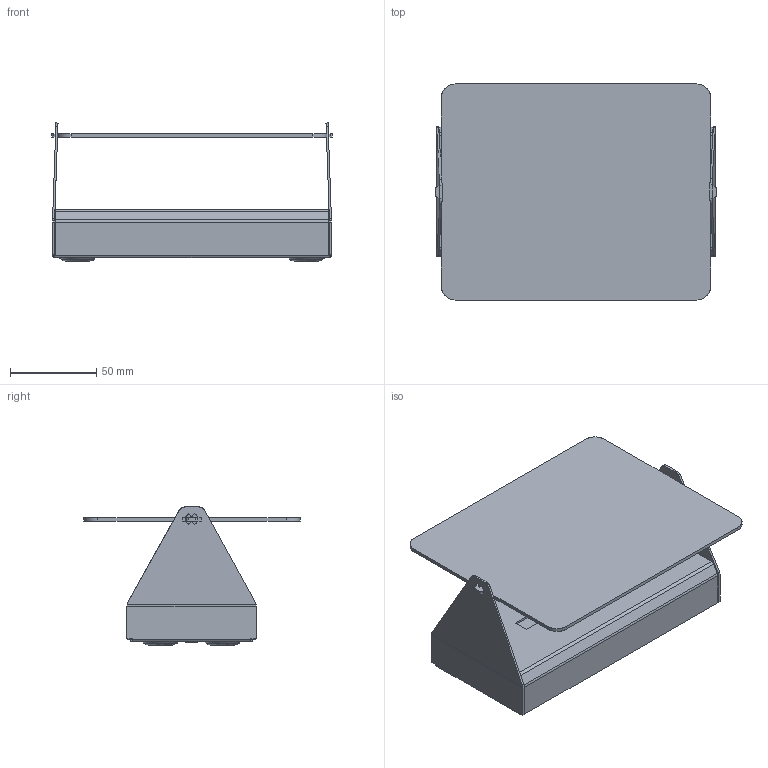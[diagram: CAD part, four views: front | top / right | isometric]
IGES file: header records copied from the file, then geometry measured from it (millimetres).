
Start section: SolidWorks IGES file using analytic representation for surfaces
Global section: file name: C:\Users\tungari.NEMOLIGHTING\Desktop\3D\WALL\3D_APPLIQUE_A_VOLET_PIVOTANT_LED\DEF\3D_APPLIQUE_A_VOLET_PIVOTANT_LED.IGS; native system: SolidWorks 2016; preprocessor: SolidWorks 2016; author: tungari; date: 180323.102156; units: millimetre
Bounding box: 162 x 125 x 79.92 mm (x, y, z)
Surface area: 135492.8 mm2 (no closed solid volume)
Topology: 0 solids, 0 shells, 262 faces, 2630 edges, 2630 vertices
Faces by surface type: bspline 162, revolution 100
